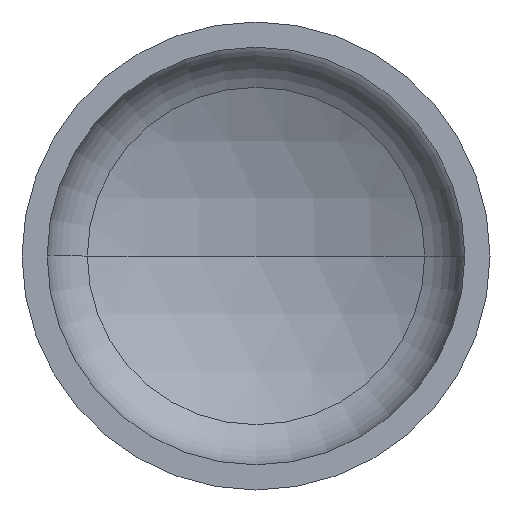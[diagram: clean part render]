
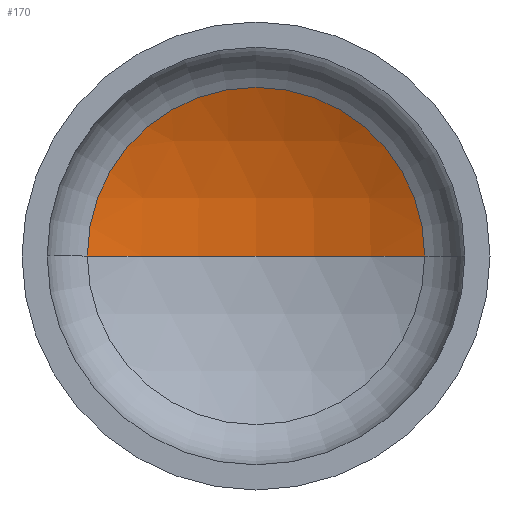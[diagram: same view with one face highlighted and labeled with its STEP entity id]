
A CAD part, front view. The second image highlights one B-rep face of the part: STEP entity #170.
In plain terms, the highlighted spherical face has radius 640 mm.
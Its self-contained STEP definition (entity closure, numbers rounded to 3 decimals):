
#1 = CARTESIAN_POINT ( 'NONE',  ( 0., 241.598, 0. ) ) ;
#11 = EDGE_LOOP ( 'NONE', ( #30, #139, #23 ) ) ;
#23 = ORIENTED_EDGE ( 'NONE', *, *, #119, .T. ) ;
#24 = VERTEX_POINT ( 'NONE', #362 ) ;
#30 = ORIENTED_EDGE ( 'NONE', *, *, #168, .F. ) ;
#31 = AXIS2_PLACEMENT_3D ( 'NONE', #152, #402, #279 ) ;
#37 = AXIS2_PLACEMENT_3D ( 'NONE', #259, #257, #256 ) ;
#42 = AXIS2_PLACEMENT_3D ( 'NONE', #203, #207, #214 ) ;
#45 = AXIS2_PLACEMENT_3D ( 'NONE', #1, #381, #309 ) ;
#90 = VERTEX_POINT ( 'NONE', #202 ) ;
#119 = EDGE_CURVE ( 'NONE', #24, #90, #222, .T. ) ;
#121 = VERTEX_POINT ( 'NONE', #196 ) ;
#139 = ORIENTED_EDGE ( 'NONE', *, *, #153, .T. ) ;
#152 = CARTESIAN_POINT ( 'NONE',  ( 0., -329.784, 0. ) ) ;
#153 = EDGE_CURVE ( 'NONE', #121, #24, #397, .T. ) ;
#162 = CIRCLE ( 'NONE', #37, 640. ) ;
#168 = EDGE_CURVE ( 'NONE', #121, #90, #162, .T. ) ;
#170 = ADVANCED_FACE ( 'NONE', ( #343 ), #215, .F. ) ;
#196 = CARTESIAN_POINT ( 'NONE',  ( 0., 310.216, 0. ) ) ;
#202 = CARTESIAN_POINT ( 'NONE',  ( -288.311, 241.598, 0. ) ) ;
#203 = CARTESIAN_POINT ( 'NONE',  ( 0., -329.784, 0. ) ) ;
#207 = DIRECTION ( 'NONE',  ( 0., 0., -1. ) ) ;
#214 = DIRECTION ( 'NONE',  ( -1., 0., 0. ) ) ;
#215 = SPHERICAL_SURFACE ( 'NONE', #31, 640. ) ;
#222 = CIRCLE ( 'NONE', #45, 288.311 ) ;
#256 = DIRECTION ( 'NONE',  ( 1., 0., 0. ) ) ;
#257 = DIRECTION ( 'NONE',  ( 0., 0., 1. ) ) ;
#259 = CARTESIAN_POINT ( 'NONE',  ( 0., -329.784, 0. ) ) ;
#279 = DIRECTION ( 'NONE',  ( -1., 0., 0. ) ) ;
#309 = DIRECTION ( 'NONE',  ( 1., 0., 0. ) ) ;
#343 = FACE_OUTER_BOUND ( 'NONE', #11, .T. ) ;
#362 = CARTESIAN_POINT ( 'NONE',  ( 288.311, 241.598, 0. ) ) ;
#381 = DIRECTION ( 'NONE',  ( 0., -1., 0. ) ) ;
#397 = CIRCLE ( 'NONE', #42, 640. ) ;
#402 = DIRECTION ( 'NONE',  ( 0., 0., -1. ) ) ;
